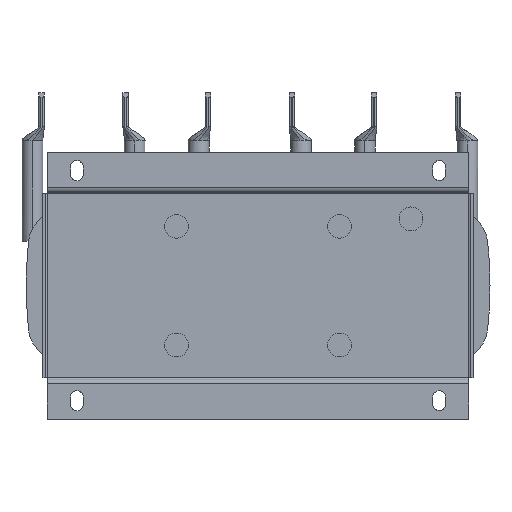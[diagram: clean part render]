
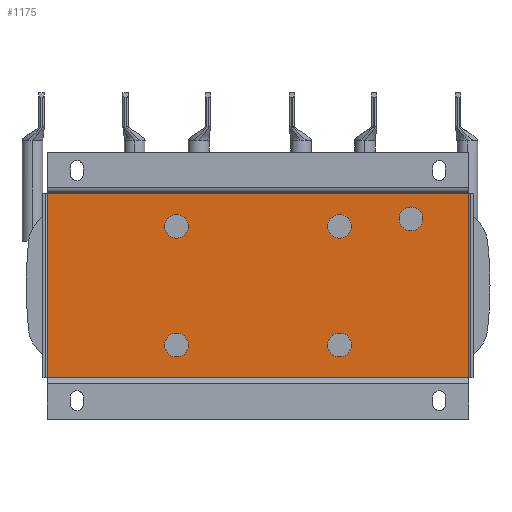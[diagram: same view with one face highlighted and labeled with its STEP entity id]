
A CAD part, front view. The second image highlights one B-rep face of the part: STEP entity #1175.
In plain terms, the highlighted planar face has unit normal (0, -1, 0).
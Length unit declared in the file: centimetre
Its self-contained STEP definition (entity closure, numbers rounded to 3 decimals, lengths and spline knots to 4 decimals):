
#21 = FACE_BOUND ( 'NONE', #2003, .T. ) ;
#293 = VERTEX_POINT ( 'NONE', #6465 ) ;
#702 = CARTESIAN_POINT ( 'NONE',  ( 14.2, 1.6, 6.2 ) ) ;
#760 = VERTEX_POINT ( 'NONE', #10694 ) ;
#780 = ORIENTED_EDGE ( 'NONE', *, *, #4545, .F. ) ;
#803 = CARTESIAN_POINT ( 'NONE',  ( -5.5, 1.6, -4.8 ) ) ;
#818 = AXIS2_PLACEMENT_3D ( 'NONE', #5436, #2688, #6902 ) ;
#1045 = CIRCLE ( 'NONE', #11235, 0.8 ) ;
#1175 = ADVANCED_FACE ( 'NONE', ( #6938, #21, #17889, #8412, #14057, #16626 ), #12593, .T. ) ;
#1194 = DIRECTION ( 'NONE',  ( 0., 0., -1. ) ) ;
#1275 = AXIS2_PLACEMENT_3D ( 'NONE', #9716, #2675, #13726 ) ;
#1457 = CARTESIAN_POINT ( 'NONE',  ( 5.5, 1.6, -4. ) ) ;
#1490 = CARTESIAN_POINT ( 'NONE',  ( -14.2, 1.6, 6.2 ) ) ;
#1675 = AXIS2_PLACEMENT_3D ( 'NONE', #1457, #8766, #10206 ) ;
#1709 = ORIENTED_EDGE ( 'NONE', *, *, #3663, .F. ) ;
#1941 = CARTESIAN_POINT ( 'NONE',  ( -5.5, 1.6, 4. ) ) ;
#2003 = EDGE_LOOP ( 'NONE', ( #8041, #11672 ) ) ;
#2139 = EDGE_LOOP ( 'NONE', ( #10578, #1709 ) ) ;
#2166 = CIRCLE ( 'NONE', #12378, 0.8 ) ;
#2197 = CIRCLE ( 'NONE', #3650, 0.8 ) ;
#2291 = CARTESIAN_POINT ( 'NONE',  ( -14.2, 1.6, 6.2 ) ) ;
#2372 = VECTOR ( 'NONE', #4836, 100. ) ;
#2675 = DIRECTION ( 'NONE',  ( 0., -1., 0. ) ) ;
#2688 = DIRECTION ( 'NONE',  ( 0., -1., 0. ) ) ;
#2691 = VERTEX_POINT ( 'NONE', #3945 ) ;
#2723 = CARTESIAN_POINT ( 'NONE',  ( 0., 1.6, 0. ) ) ;
#3060 = EDGE_CURVE ( 'NONE', #760, #9210, #9543, .T. ) ;
#3186 = AXIS2_PLACEMENT_3D ( 'NONE', #17429, #10309, #4739 ) ;
#3473 = DIRECTION ( 'NONE',  ( 0., 0., -1. ) ) ;
#3533 = CIRCLE ( 'NONE', #9982, 0.8 ) ;
#3650 = AXIS2_PLACEMENT_3D ( 'NONE', #13458, #6527, #5334 ) ;
#3663 = EDGE_CURVE ( 'NONE', #13510, #293, #11889, .T. ) ;
#3828 = VERTEX_POINT ( 'NONE', #16384 ) ;
#3909 = CARTESIAN_POINT ( 'NONE',  ( 5.5, 1.6, 3.2 ) ) ;
#3945 = CARTESIAN_POINT ( 'NONE',  ( -5.5, 1.6, 3.2 ) ) ;
#4060 = CIRCLE ( 'NONE', #3186, 0.8 ) ;
#4311 = CARTESIAN_POINT ( 'NONE',  ( -5.5, 1.6, -3.2 ) ) ;
#4327 = ORIENTED_EDGE ( 'NONE', *, *, #10324, .F. ) ;
#4545 = EDGE_CURVE ( 'NONE', #2691, #17896, #3533, .T. ) ;
#4739 = DIRECTION ( 'NONE',  ( 0., 0., -1. ) ) ;
#4774 = DIRECTION ( 'NONE',  ( 0., -1., 0. ) ) ;
#4801 = ORIENTED_EDGE ( 'NONE', *, *, #14017, .F. ) ;
#4836 = DIRECTION ( 'NONE',  ( 0., 0., 1. ) ) ;
#4913 = VECTOR ( 'NONE', #17752, 100. ) ;
#4921 = CARTESIAN_POINT ( 'NONE',  ( 14.2, 1.6, 6.2 ) ) ;
#4961 = EDGE_CURVE ( 'NONE', #13022, #12179, #10147, .T. ) ;
#5124 = CARTESIAN_POINT ( 'NONE',  ( 10.3, 1.6, 3.7 ) ) ;
#5158 = EDGE_CURVE ( 'NONE', #14295, #11372, #12055, .T. ) ;
#5334 = DIRECTION ( 'NONE',  ( 0., 0., -1. ) ) ;
#5355 = CARTESIAN_POINT ( 'NONE',  ( 10.3, 1.6, 4.5 ) ) ;
#5436 = CARTESIAN_POINT ( 'NONE',  ( 10.3, 1.6, 4.5 ) ) ;
#6338 = VECTOR ( 'NONE', #10258, 100. ) ;
#6465 = CARTESIAN_POINT ( 'NONE',  ( 10.3, 1.6, 5.3 ) ) ;
#6527 = DIRECTION ( 'NONE',  ( 0., -1., 0. ) ) ;
#6570 = CARTESIAN_POINT ( 'NONE',  ( 5.5, 1.6, -4.8 ) ) ;
#6902 = DIRECTION ( 'NONE',  ( 0., 0., -1. ) ) ;
#6938 = FACE_BOUND ( 'NONE', #2139, .T. ) ;
#6995 = EDGE_CURVE ( 'NONE', #293, #13510, #2166, .T. ) ;
#7213 = CARTESIAN_POINT ( 'NONE',  ( 5.5, 1.6, 4.8 ) ) ;
#7221 = EDGE_LOOP ( 'NONE', ( #12716, #780 ) ) ;
#7421 = DIRECTION ( 'NONE',  ( -1., 0., 0. ) ) ;
#7510 = EDGE_CURVE ( 'NONE', #9210, #760, #2197, .T. ) ;
#7542 = ORIENTED_EDGE ( 'NONE', *, *, #4961, .T. ) ;
#7707 = EDGE_CURVE ( 'NONE', #8201, #14508, #1045, .T. ) ;
#8041 = ORIENTED_EDGE ( 'NONE', *, *, #3060, .F. ) ;
#8201 = VERTEX_POINT ( 'NONE', #3909 ) ;
#8399 = ORIENTED_EDGE ( 'NONE', *, *, #14946, .T. ) ;
#8412 = FACE_BOUND ( 'NONE', #8666, .T. ) ;
#8666 = EDGE_LOOP ( 'NONE', ( #4327, #13743 ) ) ;
#8766 = DIRECTION ( 'NONE',  ( 0., -1., 0. ) ) ;
#8894 = DIRECTION ( 'NONE',  ( 0., -1., 0. ) ) ;
#9019 = EDGE_LOOP ( 'NONE', ( #8399, #13811, #7542, #15909 ) ) ;
#9210 = VERTEX_POINT ( 'NONE', #6570 ) ;
#9290 = DIRECTION ( 'NONE',  ( 0., -1., 0. ) ) ;
#9406 = CIRCLE ( 'NONE', #10583, 0.8 ) ;
#9543 = CIRCLE ( 'NONE', #1675, 0.8 ) ;
#9716 = CARTESIAN_POINT ( 'NONE',  ( -5.5, 1.6, -4. ) ) ;
#9982 = AXIS2_PLACEMENT_3D ( 'NONE', #1941, #4774, #3473 ) ;
#10147 = LINE ( 'NONE', #4921, #2372 ) ;
#10206 = DIRECTION ( 'NONE',  ( 0., 0., -1. ) ) ;
#10258 = DIRECTION ( 'NONE',  ( 0., 0., -1. ) ) ;
#10309 = DIRECTION ( 'NONE',  ( 0., -1., 0. ) ) ;
#10324 = EDGE_CURVE ( 'NONE', #14508, #8201, #4060, .T. ) ;
#10578 = ORIENTED_EDGE ( 'NONE', *, *, #6995, .F. ) ;
#10583 = AXIS2_PLACEMENT_3D ( 'NONE', #15982, #11687, #15716 ) ;
#10675 = VERTEX_POINT ( 'NONE', #2291 ) ;
#10694 = CARTESIAN_POINT ( 'NONE',  ( 5.5, 1.6, -3.2 ) ) ;
#10796 = ORIENTED_EDGE ( 'NONE', *, *, #5158, .F. ) ;
#11088 = VECTOR ( 'NONE', #7421, 100. ) ;
#11169 = AXIS2_PLACEMENT_3D ( 'NONE', #14961, #13398, #17879 ) ;
#11235 = AXIS2_PLACEMENT_3D ( 'NONE', #13075, #8894, #17023 ) ;
#11372 = VERTEX_POINT ( 'NONE', #803 ) ;
#11672 = ORIENTED_EDGE ( 'NONE', *, *, #7510, .F. ) ;
#11687 = DIRECTION ( 'NONE',  ( 0., -1., 0. ) ) ;
#11889 = CIRCLE ( 'NONE', #818, 0.8 ) ;
#11917 = EDGE_LOOP ( 'NONE', ( #10796, #4801 ) ) ;
#12055 = CIRCLE ( 'NONE', #11169, 0.8 ) ;
#12179 = VERTEX_POINT ( 'NONE', #702 ) ;
#12180 = CARTESIAN_POINT ( 'NONE',  ( -14.2, 1.6, -6.2 ) ) ;
#12323 = DIRECTION ( 'NONE',  ( 0., -1., 0. ) ) ;
#12378 = AXIS2_PLACEMENT_3D ( 'NONE', #5355, #9290, #12389 ) ;
#12389 = DIRECTION ( 'NONE',  ( 0., 0., -1. ) ) ;
#12455 = EDGE_CURVE ( 'NONE', #12179, #10675, #12718, .T. ) ;
#12593 = PLANE ( 'NONE',  #14106 ) ;
#12716 = ORIENTED_EDGE ( 'NONE', *, *, #13708, .F. ) ;
#12718 = LINE ( 'NONE', #1490, #11088 ) ;
#13022 = VERTEX_POINT ( 'NONE', #16300 ) ;
#13075 = CARTESIAN_POINT ( 'NONE',  ( 5.5, 1.6, 4. ) ) ;
#13097 = EDGE_CURVE ( 'NONE', #3828, #13022, #14915, .T. ) ;
#13398 = DIRECTION ( 'NONE',  ( 0., -1., 0. ) ) ;
#13458 = CARTESIAN_POINT ( 'NONE',  ( 5.5, 1.6, -4. ) ) ;
#13510 = VERTEX_POINT ( 'NONE', #5124 ) ;
#13708 = EDGE_CURVE ( 'NONE', #17896, #2691, #9406, .T. ) ;
#13726 = DIRECTION ( 'NONE',  ( 0., 0., -1. ) ) ;
#13743 = ORIENTED_EDGE ( 'NONE', *, *, #7707, .F. ) ;
#13811 = ORIENTED_EDGE ( 'NONE', *, *, #13097, .T. ) ;
#13985 = CARTESIAN_POINT ( 'NONE',  ( -5.5, 1.6, 4.8 ) ) ;
#14017 = EDGE_CURVE ( 'NONE', #11372, #14295, #17883, .T. ) ;
#14057 = FACE_BOUND ( 'NONE', #7221, .T. ) ;
#14106 = AXIS2_PLACEMENT_3D ( 'NONE', #2723, #12323, #1194 ) ;
#14295 = VERTEX_POINT ( 'NONE', #4311 ) ;
#14508 = VERTEX_POINT ( 'NONE', #7213 ) ;
#14915 = LINE ( 'NONE', #12180, #4913 ) ;
#14946 = EDGE_CURVE ( 'NONE', #10675, #3828, #17551, .T. ) ;
#14961 = CARTESIAN_POINT ( 'NONE',  ( -5.5, 1.6, -4. ) ) ;
#15716 = DIRECTION ( 'NONE',  ( 0., 0., -1. ) ) ;
#15909 = ORIENTED_EDGE ( 'NONE', *, *, #12455, .T. ) ;
#15982 = CARTESIAN_POINT ( 'NONE',  ( -5.5, 1.6, 4. ) ) ;
#16300 = CARTESIAN_POINT ( 'NONE',  ( 14.2, 1.6, -6.2 ) ) ;
#16384 = CARTESIAN_POINT ( 'NONE',  ( -14.2, 1.6, -6.2 ) ) ;
#16626 = FACE_OUTER_BOUND ( 'NONE', #9019, .T. ) ;
#17023 = DIRECTION ( 'NONE',  ( 0., 0., -1. ) ) ;
#17191 = CARTESIAN_POINT ( 'NONE',  ( -14.2, 1.6, 6.2 ) ) ;
#17429 = CARTESIAN_POINT ( 'NONE',  ( 5.5, 1.6, 4. ) ) ;
#17551 = LINE ( 'NONE', #17191, #6338 ) ;
#17752 = DIRECTION ( 'NONE',  ( 1., 0., 0. ) ) ;
#17879 = DIRECTION ( 'NONE',  ( 0., 0., -1. ) ) ;
#17883 = CIRCLE ( 'NONE', #1275, 0.8 ) ;
#17889 = FACE_BOUND ( 'NONE', #11917, .T. ) ;
#17896 = VERTEX_POINT ( 'NONE', #13985 ) ;
